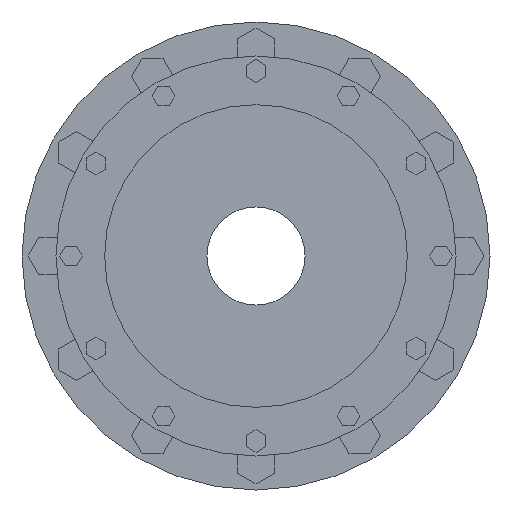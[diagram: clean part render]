
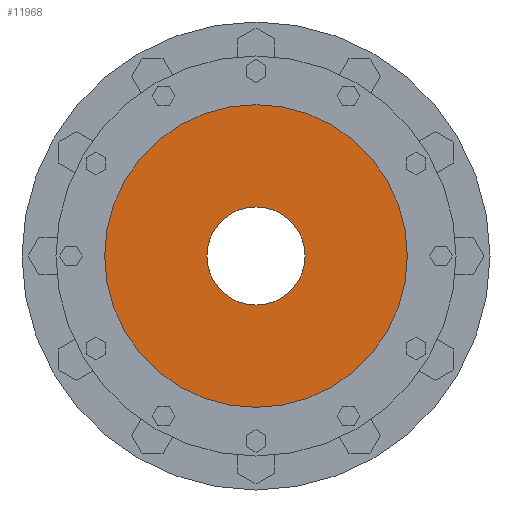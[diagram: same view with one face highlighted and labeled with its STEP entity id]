
A CAD part, left-side view. The second image highlights one B-rep face of the part: STEP entity #11968.
In plain terms, the highlighted planar face has unit normal (-1, 0, 0).
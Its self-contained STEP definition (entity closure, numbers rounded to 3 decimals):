
#11666=CARTESIAN_POINT('',(-155.,0.,0.));
#11667=DIRECTION('',(1.,0.,0.));
#11668=DIRECTION('',(0.,1.,0.));
#11669=AXIS2_PLACEMENT_3D('',#11666,#11667,#11668);
#11745=CARTESIAN_POINT('',(-155.,0.,0.));
#11746=DIRECTION('',(-1.,0.,0.));
#11747=DIRECTION('',(0.,1.,0.));
#11748=AXIS2_PLACEMENT_3D('',#11745,#11746,#11747);
#11750=CARTESIAN_POINT('',(-155.,0.,0.));
#11751=DIRECTION('',(1.,0.,0.));
#11752=DIRECTION('',(0.,1.,0.));
#11753=AXIS2_PLACEMENT_3D('',#11750,#11751,#11752);
#11764=CARTESIAN_POINT('',(-155.,0.,0.));
#11765=DIRECTION('',(-1.,0.,0.));
#11766=DIRECTION('',(0.,1.,0.));
#11767=AXIS2_PLACEMENT_3D('',#11764,#11765,#11766);
#11773=CARTESIAN_POINT('',(-155.,32.5,0.));
#11774=CARTESIAN_POINT('',(-155.,-32.5,0.));
#11775=VERTEX_POINT('',#11773);
#11776=VERTEX_POINT('',#11774);
#11777=CARTESIAN_POINT('',(-155.,100.25,0.));
#11778=CARTESIAN_POINT('',(-155.,-100.25,0.));
#11779=VERTEX_POINT('',#11777);
#11780=VERTEX_POINT('',#11778);
#11954=CARTESIAN_POINT('',(-155.,0.,0.));
#11955=DIRECTION('',(1.,0.,0.));
#11956=DIRECTION('',(0.,-1.,0.));
#11957=AXIS2_PLACEMENT_3D('',#11954,#11955,#11956);
#11958=PLANE('',#11957);
#11959=ORIENTED_EDGE('',*,*,#11936,.F.);
#11960=ORIENTED_EDGE('',*,*,#11949,.T.);
#11961=EDGE_LOOP('',(#11959,#11960));
#11962=FACE_OUTER_BOUND('',#11961,.F.);
#11963=ORIENTED_EDGE('',*,*,#11814,.F.);
#11965=ORIENTED_EDGE('',*,*,#11964,.T.);
#11966=EDGE_LOOP('',(#11963,#11965));
#11967=FACE_BOUND('',#11966,.F.);
#11968=ADVANCED_FACE('',(#11962,#11967),#11958,.F.);
#11670=CIRCLE('',#11669,32.5);
#11749=CIRCLE('',#11748,100.25);
#11754=CIRCLE('',#11753,100.25);
#11768=CIRCLE('',#11767,32.5);
#11814=EDGE_CURVE('',#11775,#11776,#11670,.T.);
#11936=EDGE_CURVE('',#11779,#11780,#11749,.T.);
#11949=EDGE_CURVE('',#11779,#11780,#11754,.T.);
#11964=EDGE_CURVE('',#11775,#11776,#11768,.T.);
